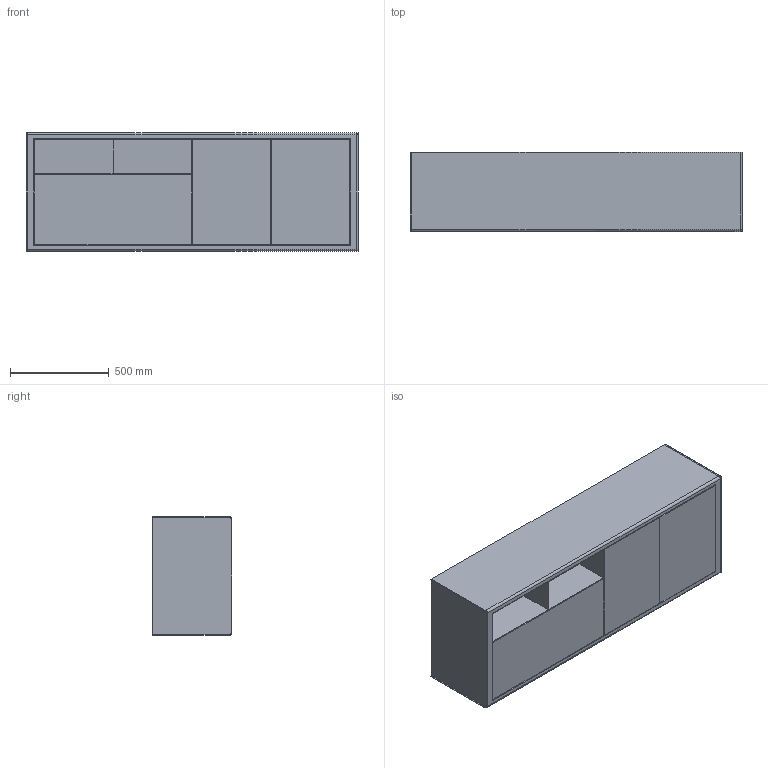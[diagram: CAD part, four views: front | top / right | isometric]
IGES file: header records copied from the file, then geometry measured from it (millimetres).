
Start section: Comment
Global section: file name: S36-H3-168-01.igs; native system:  By UGS Corp.; preprocessor: XPlus GENERIC/IGES 3.0; author: Author; organization: Title; date: 20141218.103112; units: inch
Bounding box: 1680 x 400 x 600 mm (x, y, z)
Surface area: 9268464.9 mm2 (no closed solid volume)
Topology: 0 solids, 0 shells, 55 faces, 276 edges, 276 vertices
Faces by surface type: bspline 55
